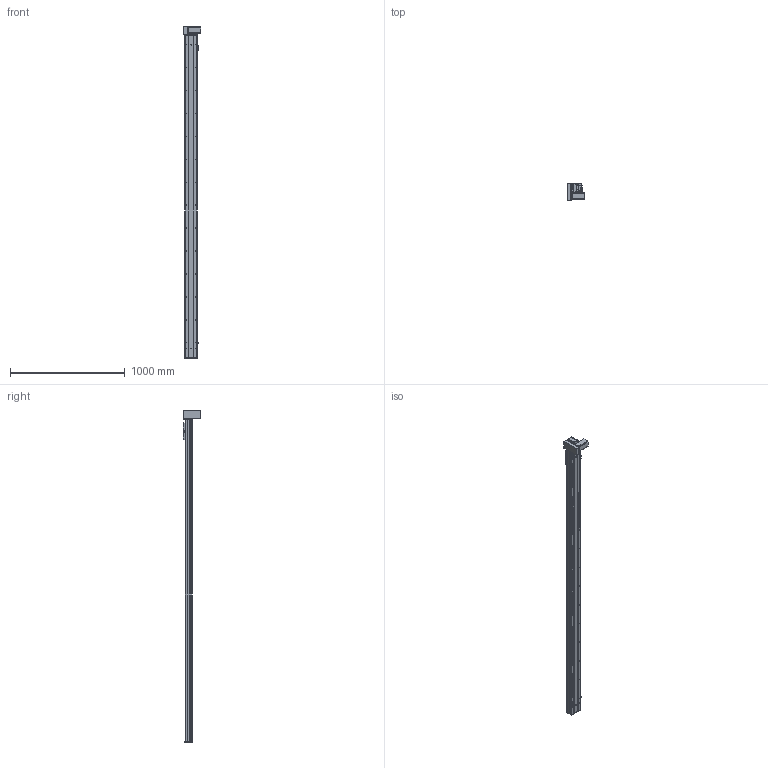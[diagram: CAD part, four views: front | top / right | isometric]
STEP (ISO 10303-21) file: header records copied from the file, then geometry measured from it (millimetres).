
FILE_DESCRIPTION (( 'STEP AP203' ), '1' );
FILE_NAME ('Y10CB-D90-S2550-BM-P400W.STEP', '2020-02-17T02:11:23', ( '微软用户' ), ( '微软中国' ), 'SwSTEP 2.0', 'SolidWorks 2017', '' );
FILE_SCHEMA (( 'CONFIG_CONTROL_DESIGN' ));
Length unit declared in the file: millimetre
Products named in the file (18): Y100-135俋离換覜ん--; 0B-源倛裔啣; Y10B--々湍喘謫眊--666; 0B-埴倛裔啣; 00B-俋欶BM--; 10CB-詩湍-; Y10B-耜蚾蟀諉啣----; Y10CB- 掛极耜裔啣-毀---; 0CB-雄赽釱---; Y10CB-D90-S2550-BM-P400W; Y10C---詩湍揤啣; 0Cb-俋欶---; 10CB9-掛极; Y10B-々湍喘謫眊楊擘啣--; 10CB-耜裔; 0B-萇儂楊擘啣; Y135C-陔俋离換覜結え-; san松下电机400不带刹车----
Assembly tree (21 placements, depth 2):
  Y10CB-D90-S2550-BM-P400W
    0CB-雄赽釱---
    0Cb-俋欶---
    Y10B-々湍喘謫眊楊擘啣--
    0B-萇儂楊擘啣
    san松下电机400不带刹车----
    0B-源倛裔啣
    0B-埴倛裔啣
    10CB-詩湍-
    Y10CB- 掛极耜裔啣-毀---  x2
    Y10C---詩湍揤啣  x2
    10CB9-掛极
    10CB-耜裔
    Y135C-陔俋离換覜結え-
    Y100-135俋离換覜ん--  x3
    Y10B--々湍喘謫眊--666
    00B-俋欶BM--
    Y10B-耜蚾蟀諉啣----
Bounding box: 157 x 156 x 2896 mm (x, y, z)
Volume: 5840487.1 mm3; surface area: 2776217 mm2
Topology: 21 solids, 21 shells, 1086 faces, 2963 edges, 1922 vertices
Faces by surface type: cylinder 569, plane 493, cone 24
Entity records: 34912 total; most frequent: CARTESIAN_POINT 6653, DIRECTION 5542, ORIENTED_EDGE 5396, EDGE_CURVE 2698, AXIS2_PLACEMENT_3D 1981, VERTEX_POINT 1748, VECTOR 1580, LINE 1580
